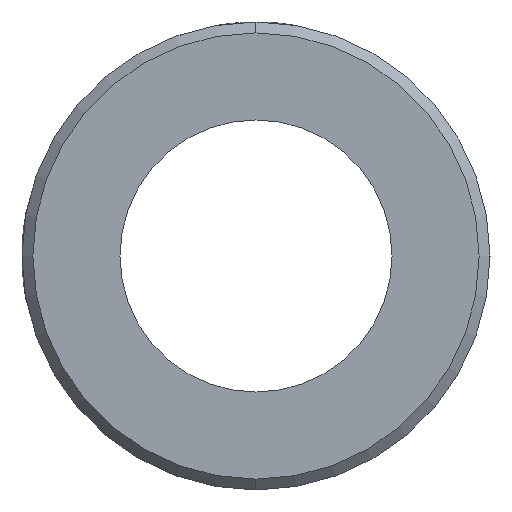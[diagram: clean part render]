
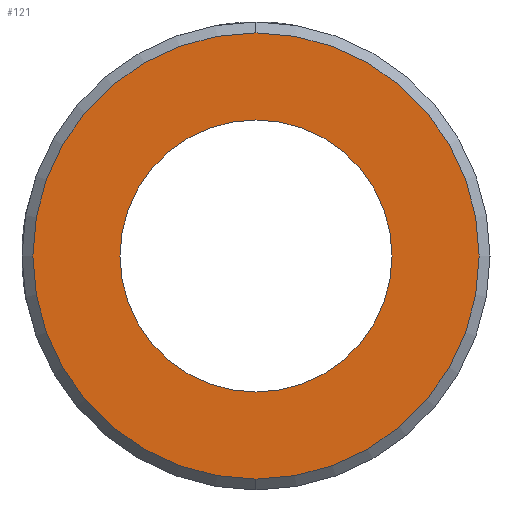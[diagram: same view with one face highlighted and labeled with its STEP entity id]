
A CAD part, left-side view. The second image highlights one B-rep face of the part: STEP entity #121.
In plain terms, the highlighted planar face has unit normal (-1, 0, 0).
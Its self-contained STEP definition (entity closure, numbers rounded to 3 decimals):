
#2 = FACE_OUTER_BOUND ( 'NONE', #861, .T. ) ;
#39 = CARTESIAN_POINT ( 'NONE',  ( 0., 0., 20.5 ) ) ;
#90 = DIRECTION ( 'NONE',  ( 0., 0., -1. ) ) ;
#94 = ORIENTED_EDGE ( 'NONE', *, *, #321, .T. ) ;
#108 = EDGE_CURVE ( 'NONE', #354, #699, #896, .T. ) ;
#120 = EDGE_LOOP ( 'NONE', ( #645, #740 ) ) ;
#121 = ADVANCED_FACE ( 'NONE', ( #709, #2 ), #558, .F. ) ;
#122 = CARTESIAN_POINT ( 'NONE',  ( 0., 20.5, 0. ) ) ;
#141 = CARTESIAN_POINT ( 'NONE',  ( 0., 0., 0. ) ) ;
#146 = ORIENTED_EDGE ( 'NONE', *, *, #616, .T. ) ;
#174 = DIRECTION ( 'NONE',  ( -1., 0., 0. ) ) ;
#175 = CARTESIAN_POINT ( 'NONE',  ( 0., 0., -12.5 ) ) ;
#189 = CIRCLE ( 'NONE', #521, 20.5 ) ;
#314 = CARTESIAN_POINT ( 'NONE',  ( 0., 0., 0. ) ) ;
#320 = CIRCLE ( 'NONE', #582, 12.5 ) ;
#321 = EDGE_CURVE ( 'NONE', #719, #602, #189, .T. ) ;
#354 = VERTEX_POINT ( 'NONE', #590 ) ;
#373 = DIRECTION ( 'NONE',  ( -1., 0., 0. ) ) ;
#388 = DIRECTION ( 'NONE',  ( 0., 0., 1. ) ) ;
#442 = AXIS2_PLACEMENT_3D ( 'NONE', #141, #872, #455 ) ;
#455 = DIRECTION ( 'NONE',  ( 0., 0., 1. ) ) ;
#521 = AXIS2_PLACEMENT_3D ( 'NONE', #789, #373, #864 ) ;
#530 = DIRECTION ( 'NONE',  ( 1., 0., 0. ) ) ;
#558 = PLANE ( 'NONE',  #863 ) ;
#572 = CIRCLE ( 'NONE', #640, 20.5 ) ;
#582 = AXIS2_PLACEMENT_3D ( 'NONE', #609, #174, #677 ) ;
#590 = CARTESIAN_POINT ( 'NONE',  ( 0., 0., 12.5 ) ) ;
#602 = VERTEX_POINT ( 'NONE', #826 ) ;
#609 = CARTESIAN_POINT ( 'NONE',  ( 0., 0., 0. ) ) ;
#616 = EDGE_CURVE ( 'NONE', #602, #719, #572, .T. ) ;
#640 = AXIS2_PLACEMENT_3D ( 'NONE', #314, #805, #388 ) ;
#645 = ORIENTED_EDGE ( 'NONE', *, *, #108, .F. ) ;
#677 = DIRECTION ( 'NONE',  ( 0., 0., 1. ) ) ;
#699 = VERTEX_POINT ( 'NONE', #175 ) ;
#709 = FACE_BOUND ( 'NONE', #120, .T. ) ;
#719 = VERTEX_POINT ( 'NONE', #39 ) ;
#740 = ORIENTED_EDGE ( 'NONE', *, *, #908, .F. ) ;
#789 = CARTESIAN_POINT ( 'NONE',  ( 0., 0., 0. ) ) ;
#805 = DIRECTION ( 'NONE',  ( -1., 0., 0. ) ) ;
#826 = CARTESIAN_POINT ( 'NONE',  ( 0., 0., -20.5 ) ) ;
#861 = EDGE_LOOP ( 'NONE', ( #146, #94 ) ) ;
#863 = AXIS2_PLACEMENT_3D ( 'NONE', #122, #530, #90 ) ;
#864 = DIRECTION ( 'NONE',  ( 0., 0., 1. ) ) ;
#872 = DIRECTION ( 'NONE',  ( -1., 0., 0. ) ) ;
#896 = CIRCLE ( 'NONE', #442, 12.5 ) ;
#908 = EDGE_CURVE ( 'NONE', #699, #354, #320, .T. ) ;
